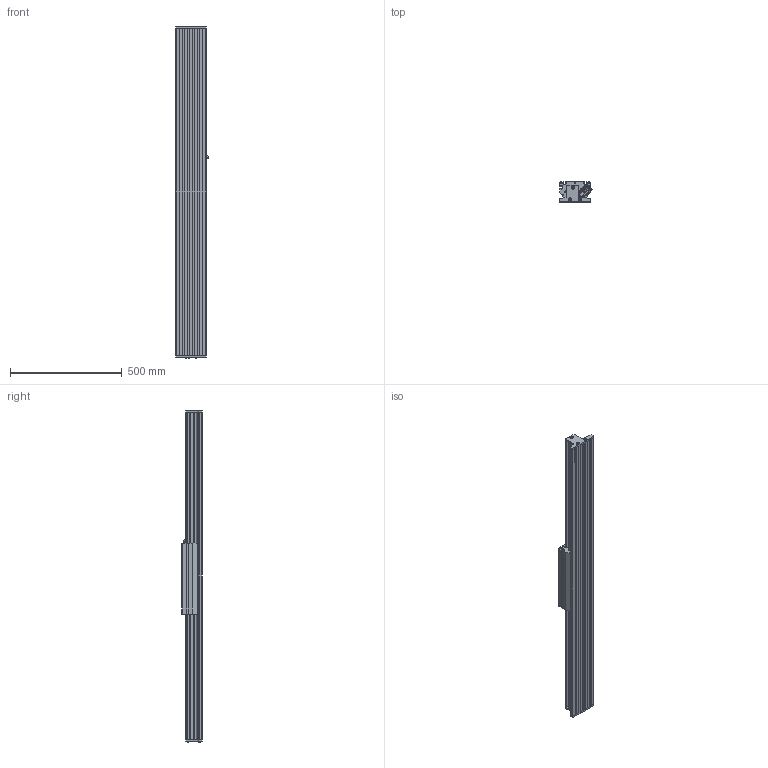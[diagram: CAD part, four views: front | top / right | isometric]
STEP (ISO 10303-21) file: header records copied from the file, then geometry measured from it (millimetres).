
FILE_DESCRIPTION (( 'STEP AP214' ), '1' );
FILE_NAME ('SINADRIVES Linear motor stage MLL20400XS-XX-1-0-ST-00-01476.STEP', '2015-07-06T11:00:39', ( 'Tecnico' ), ( '' ), 'SwSTEP 2.0', 'SolidWorks 2009', '' );
FILE_SCHEMA (( 'AUTOMOTIVE_DESIGN' ));
Length unit declared in the file: millimetre
Products named in the file (7): SINADRIVES PROFILE MLL2XXXX-1460; SINADRIVES CARRIAGE MLL20400XS-1; CARRIAGE MLL20400; Connector power+signal Y-tec 45; SINADRIVES ENDBLOCK MLL2; SINADRIVES ENDBLOCK MLL2-2; SINADRIVES Linear motor stage MLL20400XS-XX-1-0-ST-00-01476
Assembly tree (6 placements, depth 3):
  SINADRIVES Linear motor stage MLL20400XS-XX-1-0-ST-00-01476
    SINADRIVES PROFILE MLL2XXXX-1460
    SINADRIVES ENDBLOCK MLL2
    SINADRIVES ENDBLOCK MLL2-2
    SINADRIVES CARRIAGE MLL20400XS-1
      CARRIAGE MLL20400
      Connector power+signal Y-tec 45
Bounding box: 144.43 x 91 x 1484.8 mm (x, y, z)
Volume: 7627497.6 mm3; surface area: 1313832.1 mm2
Topology: 2 solids, 42 shells, 950 faces, 2640 edges, 1730 vertices
Faces by surface type: plane 445, cylinder 302, bspline 79, cone 70, torus 42, sphere 12
Entity records: 40587 total; most frequent: CARTESIAN_POINT 8656, ORIENTED_EDGE 5024, DIRECTION 4947, EDGE_CURVE 2622, AXIS2_PLACEMENT_3D 1781, VERTEX_POINT 1730, LINE 1385, VECTOR 1385
